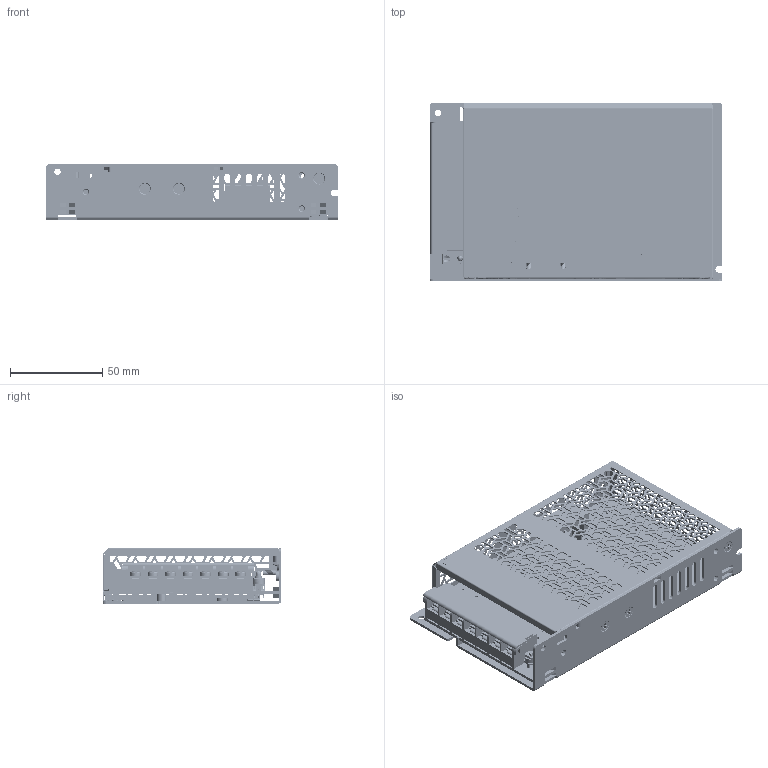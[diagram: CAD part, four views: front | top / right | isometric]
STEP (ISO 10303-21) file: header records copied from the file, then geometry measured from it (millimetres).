
FILE_DESCRIPTION((''),'2;1');
FILE_NAME('KC','2022-08-26T',('pe202'),(''),'PRO/ENGINEER BY PARAMETRIC TECHNOLOGY CORPORATION, 2014000','PRO/ENGINEER BY PARAMETRIC TECHNOLOGY CORPORATION, 2014000','');
FILE_SCHEMA(('CONFIG_CONTROL_DESIGN','GEOMETRIC_VALIDATION_PROPERTIES_MIM'));
Products named in the file (1): KC
Bounding box: 159 x 97 x 30 mm (x, y, z)
Volume: 52052.7 mm3; surface area: 116351.2 mm2
Topology: 7 solids, 40 shells, 7713 faces, 22076 edges, 14413 vertices
Faces by surface type: bspline 4601, revolution 3112
Entity records: 373256 total; most frequent: CARTESIAN_POINT 139150, ORIENTED_EDGE 44034, DIRECTION 29904, EDGE_CURVE 22054, VECTOR 14600, LINE 14600, VERTEX_POINT 14412, EDGE_LOOP 9152
